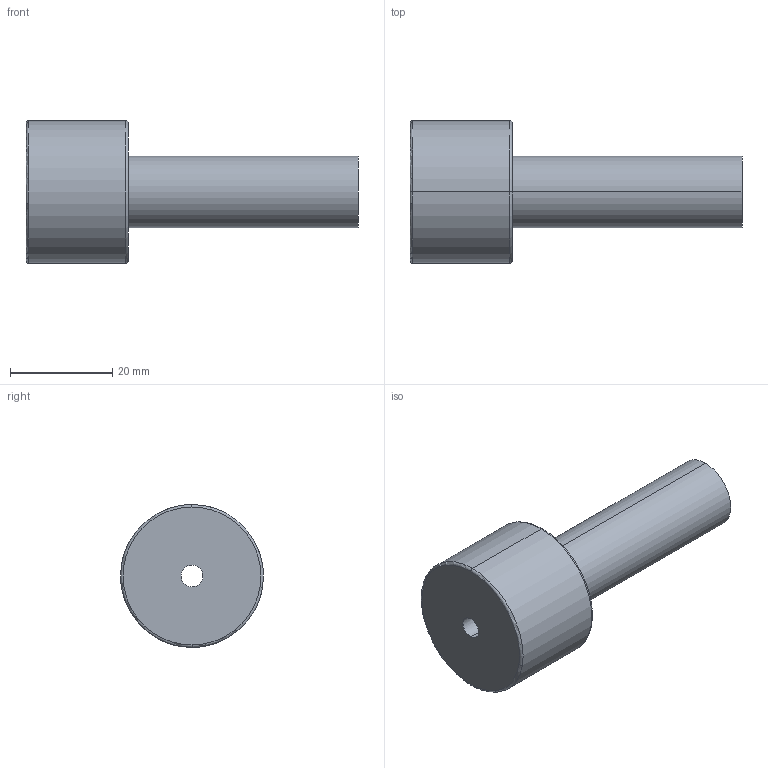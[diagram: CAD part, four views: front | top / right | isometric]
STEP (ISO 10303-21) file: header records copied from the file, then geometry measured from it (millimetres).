
FILE_DESCRIPTION(('CATIA V5 STEP Exchange'),'2;1');
FILE_NAME('C:\Users\Utente\Desktop\IO LAVORO\3D X SITO CF\X SITO\PLASTICA\3D files 367\367F-14X65.stp','2021-03-24T15:55:02+00:00',('none'),('none'),'CATIA Version 5 Release 20 GA (IN-10)','CATIA V5 STEP AP203','none');
FILE_SCHEMA(('CONFIG_CONTROL_DESIGN'));
Length unit declared in the file: millimetre
Products named in the file (1): 367F-14X65
Bounding box: 65 x 28 x 28 mm (x, y, z)
Volume: 17344.5 mm3; surface area: 6097 mm2
Topology: 1 solids, 1 shells, 13 faces, 42 edges, 32 vertices
Faces by surface type: torus 4, cylinder 4, plane 3, cone 2
Entity records: 614 total; most frequent: CARTESIAN_POINT 200, ORIENTED_EDGE 84, DIRECTION 60, AXIS2_PLACEMENT_3D 42, EDGE_CURVE 42, VERTEX_POINT 32, CIRCLE 28, EDGE_LOOP 16
